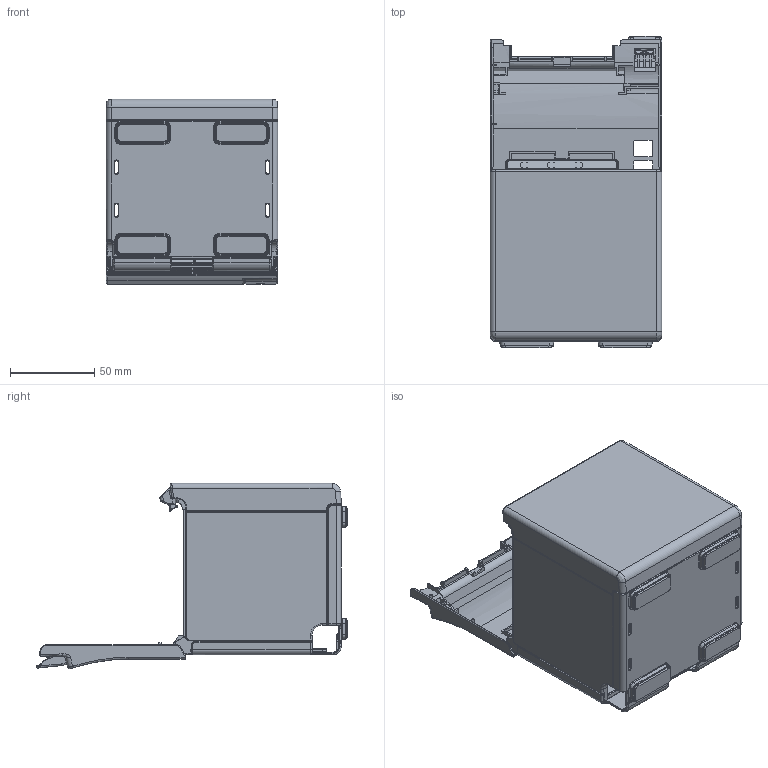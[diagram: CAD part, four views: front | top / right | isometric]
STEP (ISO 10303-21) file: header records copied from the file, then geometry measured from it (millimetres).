
FILE_DESCRIPTION((''),'2;1');
FILE_NAME('TM-M10_TOP_OPEN_SW','2025-01-23T11:24:58',('0092109'),(''),'CREO PARAMETRIC BY PTC INC, 2022281','CREO PARAMETRIC BY PTC INC, 2022281','');
FILE_SCHEMA(('AUTOMOTIVE_DESIGN { 1 0 10303 214 1 1 1 1 }'));
Products named in the file (1): TM-M10_TOP_OPEN_SW
Bounding box: 102 x 185.35 x 110.27 mm (x, y, z)
Surface area: 143083.9 mm2 (no closed solid volume)
Topology: 0 solids, 13 shells, 2057 faces, 5916 edges, 3810 vertices
Faces by surface type: plane 963, cylinder 687, torus 245, bspline 104, cone 35, sphere 22, extrusion 1
Entity records: 75872 total; most frequent: CARTESIAN_POINT 22131, DIRECTION 11258, ORIENTED_EDGE 10941, EDGE_CURVE 5916, VERTEX_POINT 3810, AXIS2_PLACEMENT_3D 3754, VECTOR 3750, LINE 3749
